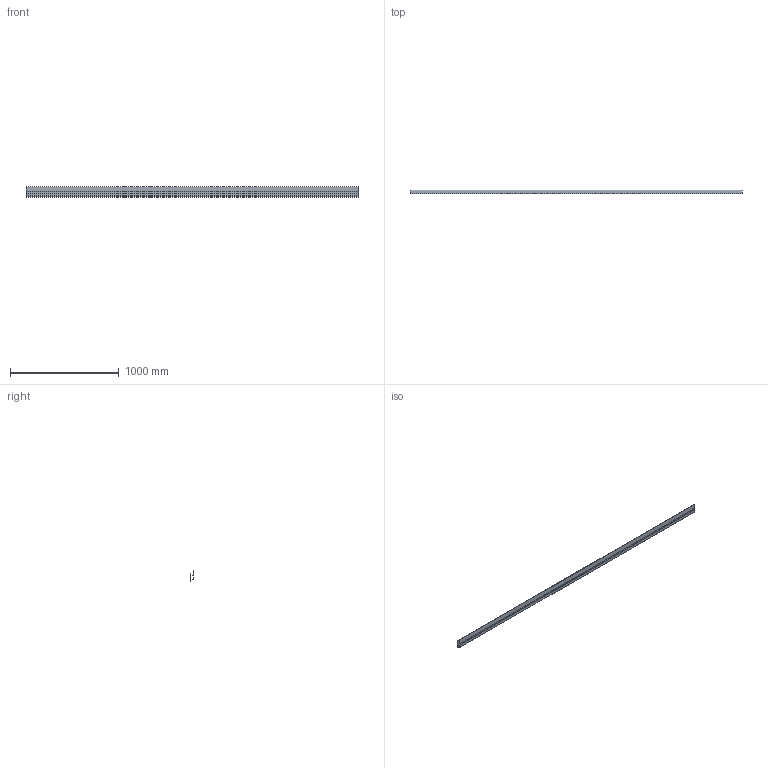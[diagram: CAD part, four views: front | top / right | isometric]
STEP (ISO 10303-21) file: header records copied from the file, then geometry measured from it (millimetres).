
FILE_DESCRIPTION(/* description */ (''),/* implementation_level */ '2;1');
FILE_NAME(/* name */ 'C:\Users\Utilisateur\Mac Metal\Site de communication - Documents\Ingénierie\Développement de produits\Board and Batten\Dessins\Moulures\M12H\M12H.stp',/* time_stamp */ '2022-08-10T11:59:08-04:00',/* author */ ('Utilisateur'),/* organization */ (''),/* preprocessor_version */ 'ST-DEVELOPER v18.1',/* originating_system */ 'Autodesk Inventor 2021',/* authorisation */ '');
FILE_SCHEMA (('AUTOMOTIVE_DESIGN { 1 0 10303 214 3 1 1 }'));
Length unit declared in the file: inch
Products named in the file (1): Moulure de transition verticale
Bounding box: 3048 x 28.19 x 100.94 mm (x, y, z)
Volume: 384782 mm3; surface area: 1521069 mm2
Topology: 2 solids, 2 shells, 32 faces, 84 edges, 56 vertices
Faces by surface type: plane 24, cylinder 8
Entity records: 1026 total; most frequent: CARTESIAN_POINT 173, ORIENTED_EDGE 168, DIRECTION 166, EDGE_CURVE 84, LINE 68, VECTOR 68, VERTEX_POINT 56, AXIS2_PLACEMENT_3D 49
